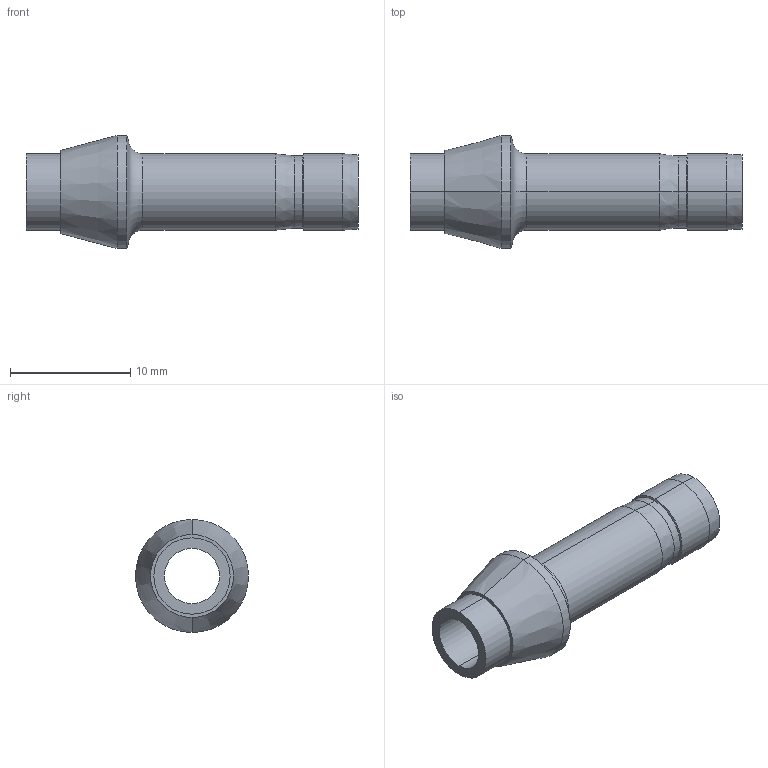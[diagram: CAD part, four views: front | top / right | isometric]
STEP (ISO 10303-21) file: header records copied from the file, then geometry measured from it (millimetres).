
FILE_DESCRIPTION (( 'STEP AP203' ), '1' );
FILE_NAME ('DPC04-04 SS.STEP', '2009-09-08T08:33:24', ( ' ' ), ( '' ), 'SwSTEP 2.0', 'SolidWorks 2008', '' );
FILE_SCHEMA (( 'CONFIG_CONTROL_DESIGN' ));
Length unit declared in the file: millimetre
Products named in the file (1): DPC04-04 SS
Bounding box: 27.6 x 9.4 x 9.4 mm (x, y, z)
Volume: 548.7 mm3; surface area: 1048.8 mm2
Topology: 1 solids, 1 shells, 27 faces, 54 edges, 30 vertices
Faces by surface type: cylinder 12, cone 10, plane 3, torus 2
Entity records: 777 total; most frequent: DIRECTION 142, CARTESIAN_POINT 112, ORIENTED_EDGE 108, AXIS2_PLACEMENT_3D 60, EDGE_CURVE 54, CIRCLE 32, EDGE_LOOP 30, VERTEX_POINT 30
